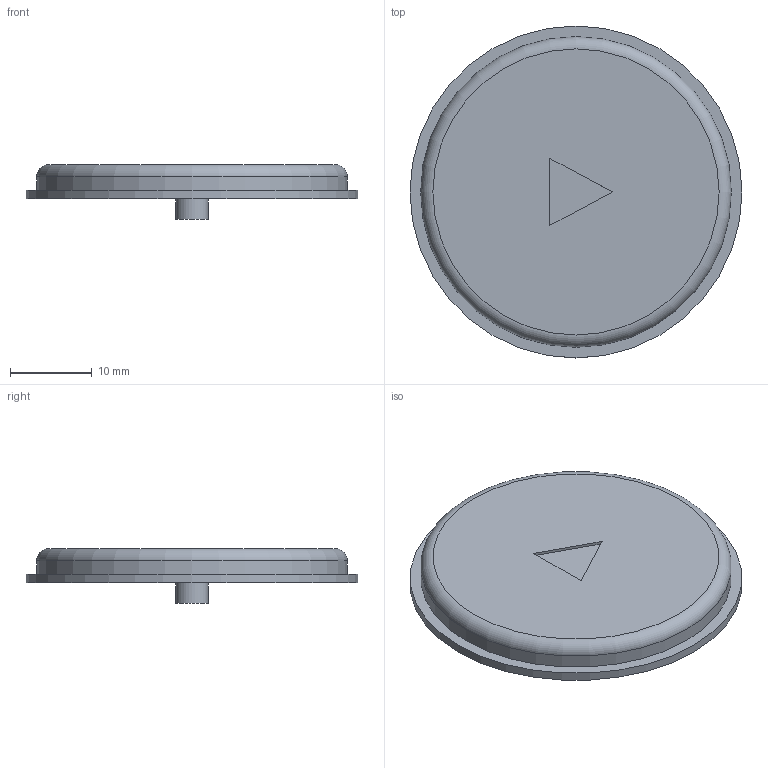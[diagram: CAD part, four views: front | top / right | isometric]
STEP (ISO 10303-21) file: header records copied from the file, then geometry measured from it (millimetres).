
FILE_DESCRIPTION(('Open CASCADE Model'),'2;1');
FILE_NAME('Open CASCADE Shape Model','2026-09-08T13:27:14',('Author'),( 'Open CASCADE'),'Open CASCADE STEP processor 7.7','Open CASCADE 7.7' ,'Unknown');
FILE_SCHEMA(('AUTOMOTIVE_DESIGN { 1 0 10303 214 1 1 1 1 }'));
Length unit declared in the file: millimetre
Products named in the file (1): Open CASCADE STEP translator 7.7 11
Bounding box: 40.6 x 40.6 x 6.7 mm (x, y, z)
Volume: 4895.6 mm3; surface area: 3061.7 mm2
Topology: 1 solids, 1 shells, 12 faces, 20 edges, 13 vertices
Faces by surface type: plane 8, cylinder 3, torus 1
Full cylindrical faces by diameter (mm): 4 x1, 38 x1, 40.6 x1
Entity records: 557 total; most frequent: DIRECTION 93, CARTESIAN_POINT 92, LINE 46, VECTOR 46, ORIENTED_EDGE 40, PCURVE 40, DEFINITIONAL_REPRESENTATION 40, AXIS2_PLACEMENT_3D 21
